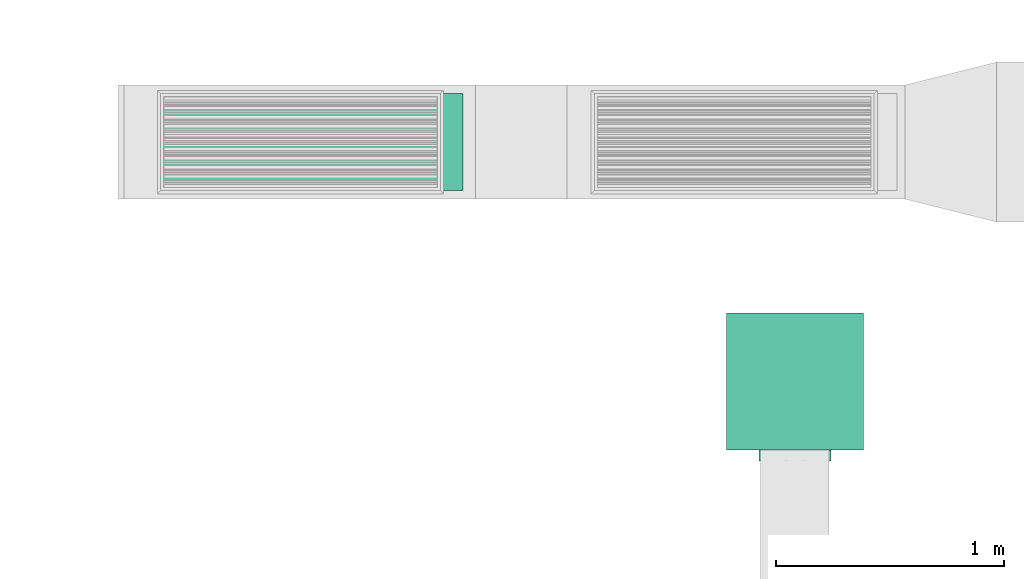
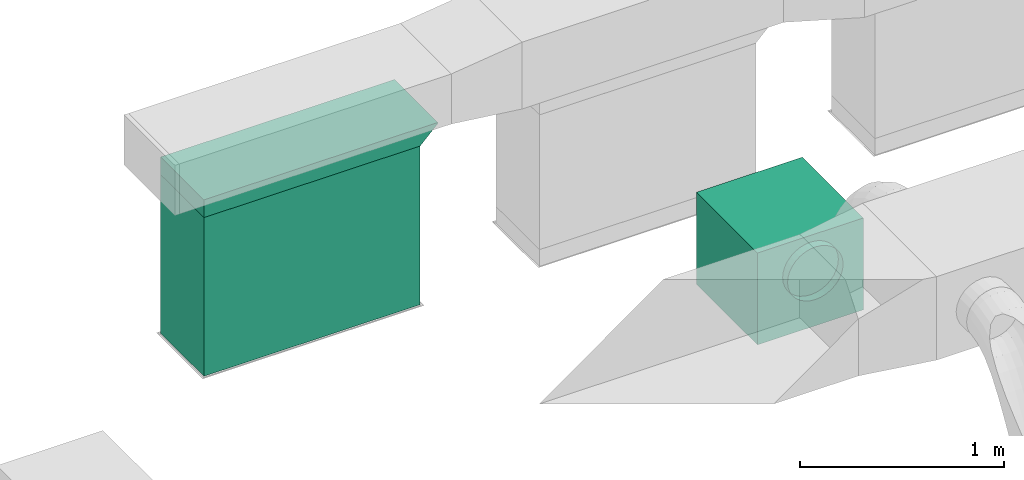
# One storey, part 9 of 60: 1 flow fitting, 1 flow segment, 1 flow terminal.
"""IFC2X3 building model written with IfcOpenShell, lengths in millimetres."""

from ifc_helpers import new_model, entity, si_unit, converted_unit, derived_unit, direction, frame, origin, origin_2d_with_axis, place, context, subcontext, project, spatial, polyline, rectangle, outline, extrude, face_set, surface_model, source, transform, mapped, material, type_object, type_shapes, element, save


model = new_model("IFC2X3")

# Units and contexts
model_context = context("Model", 3, precision=0.01, world=origin(), true_north=direction((6.123233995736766e-17, 1.0)))
body_context = subcontext(model_context, "Body", "Model", "MODEL_VIEW")
ifc_project = project(units=[si_unit("LENGTHUNIT", "METRE", prefix="MILLI"), converted_unit("PLANEANGLEUNIT", "DEGREE", entity("IfcPlaneAngleMeasure", 0.017453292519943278), si_unit("PLANEANGLEUNIT", "RADIAN"), dimensions=[0, 0, 0, 0, 0, 0, 0]), si_unit("AREAUNIT", "SQUARE_METRE"), derived_unit("THERMALTRANSMITTANCEUNIT", [(si_unit("MASSUNIT", "GRAM", prefix="KILO"), 1), (si_unit("THERMODYNAMICTEMPERATUREUNIT", "KELVIN"), -1), (si_unit("TIMEUNIT", "SECOND"), -3)])], contexts=[model_context])

# Site, building, storey
site_placement = place(None, origin())
site = spatial("IfcSite", under=ifc_project, at=site_placement, Name="Default", CompositionType="ELEMENT")
building_placement = place(site_placement, origin())
building = spatial("IfcBuilding", under=site, at=building_placement, Name="Praça Pedro II, 1301 - Centro (Sul), Teresina - PI, 64001-100", CompositionType="ELEMENT")
storey_placement = place(building_placement, frame((0.0, 0.0, 6040.0)))
storey = spatial("IfcBuildingStorey", under=building, at=storey_placement, Name="2PAV", CompositionType="ELEMENT", Elevation=6040.0)

# Flow terminal
ifc_material = material(Name="<Unnamed>")
air_terminal_type = type_object("IfcAirTerminalType", Name="VD-HM 600:VD-HM 600", PredefinedType="NOTDEFINED", material=ifc_material)
shared_shape_1 = source(origin(), body_context, "Body", "SurfaceModel", [
    surface_model("IfcFaceBasedSurfaceModel", [(280.24999051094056, 280.0000057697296, -0.099993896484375), (-279.75000286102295, 280.0000057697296, -0.099993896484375), (-279.75000286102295, -280.0000057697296, -0.099993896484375), (280.24999051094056, -280.0000057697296, -0.099993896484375), (-300.75001101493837, 0.0, 510.50001697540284), (-300.75001101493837, -30.726726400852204, 507.4736755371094), (-300.75001101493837, 0.0, 353.0000012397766), (-300.75001101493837, -60.27264279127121, 498.51103219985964), (-300.75001101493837, -87.50230793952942, 483.9564700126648), (-300.75001101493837, -111.3693195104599, 464.3693298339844), (-300.75001101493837, -130.95645968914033, 440.5023273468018), (-300.75001101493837, -145.51102187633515, 413.272630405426), (-300.75001101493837, -154.47367429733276, 383.7267230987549), (-300.75001101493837, -157.4999975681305, 353.0000012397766), (-300.75001101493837, -154.47367429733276, 322.27327938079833), (-300.75001101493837, -145.51102187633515, 292.7273539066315), (-300.75001101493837, -130.95645968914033, 265.4976933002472), (-300.75001101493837, -111.3693195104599, 241.63069081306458), (-300.75001101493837, -87.50230793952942, 222.04353246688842), (-300.75001101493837, -60.27264279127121, 207.4889702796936), (-300.75001101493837, -30.726726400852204, 198.52632694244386), (-300.75001101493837, 0.0, 195.5000036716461), (-300.75001101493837, 30.726726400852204, 198.52632694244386), (-300.75001101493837, 60.27264279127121, 207.4889702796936), (-300.75001101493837, 87.50230793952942, 222.04353246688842), (-300.75001101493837, 111.3693195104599, 241.63069081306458), (-300.75001101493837, 130.95645968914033, 265.4976933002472), (-300.75001101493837, 145.51102187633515, 292.7273539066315), (-300.75001101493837, 154.47367429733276, 322.27327938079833), (-300.75001101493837, 157.4999975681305, 353.0000012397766), (-300.75001101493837, 154.47367429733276, 383.7267230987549), (-300.75001101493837, 145.51102187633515, 413.272630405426), (-300.75001101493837, 130.95645968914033, 440.5023273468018), (-300.75001101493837, 111.3693195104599, 464.3693298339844), (-300.75001101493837, 87.50230793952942, 483.9564700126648), (-300.75001101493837, 60.27264279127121, 498.51103219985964), (-300.75001101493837, 30.726726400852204, 507.4736755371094), (300.24998703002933, 300.0000022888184, 550.000004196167), (300.24998703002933, 300.0000022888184, 0.0), (-299.7499993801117, 300.0000022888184, 0.0), (-299.7499993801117, 300.0000022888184, 550.000004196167), (300.24998703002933, -300.0000022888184, 550.000004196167), (300.24998703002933, -300.0000022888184, 0.0), (-299.7499993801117, -300.0000022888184, 550.000004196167), (-299.7499993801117, -300.0000022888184, 0.0), (280.24999051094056, 280.0000057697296, -0.099993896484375), (10.250000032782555, 280.0000057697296, -0.099993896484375), (10.250000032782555, 256.6173123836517, -13.600005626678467), (280.24999051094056, 256.6173123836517, -13.600005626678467), (280.24999051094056, 253.0, -0.099993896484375), (10.250000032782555, 253.0, -0.099993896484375), (10.250000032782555, 229.61732525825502, -13.600005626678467), (280.24999051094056, 229.61732525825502, -13.600005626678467), (280.24999051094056, 225.99999518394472, -0.099993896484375), (10.250000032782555, 225.99999518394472, -0.099993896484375), (10.250000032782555, 202.61731996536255, -13.600005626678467), (280.24999051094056, 202.61731996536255, -13.600005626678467), (280.24999051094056, 199.000008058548, -0.099993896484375), (10.250000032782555, 199.000008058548, -0.099993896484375), (10.250000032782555, 175.6173146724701, -13.600005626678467), (280.24999051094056, 175.6173146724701, -13.600005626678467), (280.24999051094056, 172.00000276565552, -0.099993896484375), (10.250000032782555, 172.00000276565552, -0.099993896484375), (10.250000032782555, 148.61731846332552, -13.600005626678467), (280.24999051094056, 148.61731846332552, -13.600005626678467), (280.24999051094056, 144.99999747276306, -0.099993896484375), (10.250000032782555, 144.99999747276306, -0.099993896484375), (10.250000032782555, 121.61731317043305, -13.600005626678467), (280.24999051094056, 121.61731317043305, -13.600005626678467), (280.24999051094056, 118.00000126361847, -0.099993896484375), (10.250000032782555, 118.00000126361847, -0.099993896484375), (280.24999051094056, 94.61731696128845, -13.600005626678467), (10.250000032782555, 94.61731696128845, -13.600005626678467), (280.24999051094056, 90.99999597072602, -0.099993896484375), (10.250000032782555, 90.99999597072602, -0.099993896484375), (280.24999051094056, 67.61731621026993, -13.600005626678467), (10.250000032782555, 67.61731621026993, -13.600005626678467), (280.24999051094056, 63.99999976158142, -0.099993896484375), (10.250000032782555, 63.99999976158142, -0.099993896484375), (10.250000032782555, 40.61731545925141, -13.600005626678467), (280.24999051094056, 40.61731545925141, -13.600005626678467), (280.24999051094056, 36.999999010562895, -0.099993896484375), (10.250000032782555, 36.999999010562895, -0.099993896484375), (10.250000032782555, 13.617316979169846, -13.600005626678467), (280.24999051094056, 13.617316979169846, -13.600005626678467), (-9.74999989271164, -256.6173123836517, -13.600005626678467), (-279.75000286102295, -256.6173123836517, -13.600005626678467), (-279.75000286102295, -280.0000057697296, -0.099993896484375), (-9.74999989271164, -280.0000057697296, -0.099993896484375), (-9.74999989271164, -229.61732525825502, -13.600005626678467), (-279.75000286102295, -229.61732525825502, -13.600005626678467), (-279.75000286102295, -253.0, -0.099993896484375), (-9.74999989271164, -253.0, -0.099993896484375), (-9.74999989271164, -202.61731996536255, -13.600005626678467), (-279.75000286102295, -202.61731996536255, -13.600005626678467), (-279.75000286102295, -225.99999518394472, -0.099993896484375), (-9.74999989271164, -225.99999518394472, -0.099993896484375), (-9.74999989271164, -175.6173146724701, -13.600005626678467), (-279.75000286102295, -175.6173146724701, -13.600005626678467), (-279.75000286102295, -199.000008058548, -0.099993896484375), (-9.74999989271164, -199.000008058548, -0.099993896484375), (-9.74999989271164, -148.61731846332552, -13.600005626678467), (-279.75000286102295, -148.61731846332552, -13.600005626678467), (-279.75000286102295, -172.00000276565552, -0.099993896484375), (-9.74999989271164, -172.00000276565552, -0.099993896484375), (-9.74999989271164, -121.61731317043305, -13.600005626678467), (-279.75000286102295, -121.61731317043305, -13.600005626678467), (-279.75000286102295, -144.99999747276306, -0.099993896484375), (-9.74999989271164, -144.99999747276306, -0.099993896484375), (-9.74999989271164, -94.61731696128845, -13.600005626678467), (-279.75000286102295, -94.61731696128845, -13.600005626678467), (-279.75000286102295, -118.00000126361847, -0.099993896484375), (-9.74999989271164, -118.00000126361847, -0.099993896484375), (-9.74999989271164, -67.61731621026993, -13.600005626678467), (-279.75000286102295, -67.61731621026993, -13.600005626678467), (-279.75000286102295, -90.99999597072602, -0.099993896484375), (-9.74999989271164, -90.99999597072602, -0.099993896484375), (-9.74999989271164, -40.61731545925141, -13.600005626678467), (-279.75000286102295, -40.61731545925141, -13.600005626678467), (-279.75000286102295, -63.99999976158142, -0.099993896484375), (-9.74999989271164, -63.99999976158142, -0.099993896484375), (-9.74999989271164, -13.617316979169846, -13.600005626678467), (-279.75000286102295, -13.617316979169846, -13.600005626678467), (-279.75000286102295, -36.999999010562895, -0.099993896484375), (-9.74999989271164, -36.999999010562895, -0.099993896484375), (280.24999051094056, -10.000000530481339, -0.099993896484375), (256.100465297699, -10.000000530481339, -12.174765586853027), (256.100465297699, -280.0000057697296, -12.174765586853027), (280.24999051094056, -280.0000057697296, -0.099993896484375), (253.25000338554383, -10.000000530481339, -0.099993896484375), (229.10046000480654, -10.000000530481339, -12.174765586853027), (229.10046000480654, -280.0000057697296, -12.174765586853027), (253.25000338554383, -280.0000057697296, -0.099993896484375), (226.24999809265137, -10.000000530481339, -0.099993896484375), (202.10045471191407, -10.000000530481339, -12.174765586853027), (202.10045471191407, -280.0000057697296, -12.174765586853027), (226.24999809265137, -280.0000057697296, -0.099993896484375), (199.24999279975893, -10.000000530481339, -0.099993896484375), (175.10046758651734, -10.000000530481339, -12.174765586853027), (175.10046758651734, -280.0000057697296, -12.174765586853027), (199.24999279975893, -280.0000057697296, -0.099993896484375), (172.24998750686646, -10.000000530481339, -0.099993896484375), (148.10046229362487, -10.000000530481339, -12.174765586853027), (148.10046229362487, -280.0000057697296, -12.174765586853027), (172.24998750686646, -280.0000057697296, -0.099993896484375), (145.25000038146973, -10.000000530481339, -0.099993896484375), (121.10046608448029, -10.000000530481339, -12.174765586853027), (121.10046608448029, -280.0000057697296, -12.174765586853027), (145.25000038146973, -280.0000057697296, -0.099993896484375), (118.24999508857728, -10.000000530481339, -0.099993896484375), (94.10046079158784, -10.000000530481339, -12.174765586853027), (94.10046079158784, -280.0000057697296, -12.174765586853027), (118.24999508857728, -280.0000057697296, -0.099993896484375), (91.24999887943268, -10.000000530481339, -0.099993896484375), (67.10046912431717, -10.000000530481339, -12.174765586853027), (67.10046912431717, -280.0000057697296, -12.174765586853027), (91.24999887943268, -280.0000057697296, -0.099993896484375), (64.24999812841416, -10.000000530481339, -0.099993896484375), (40.100468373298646, -10.000000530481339, -12.174765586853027), (40.100468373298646, -280.0000057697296, -12.174765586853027), (64.24999812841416, -280.0000057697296, -0.099993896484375), (37.250001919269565, -10.000000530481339, -0.099993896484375), (13.100466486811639, -10.000000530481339, -12.174765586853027), (13.100466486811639, -280.0000057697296, -12.174765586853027), (37.250001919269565, -280.0000057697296, -0.099993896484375), (-279.75000286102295, 10.000000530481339, -0.099993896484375), (-255.6004776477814, 10.000000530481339, -12.174765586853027), (-255.6004776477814, 280.0000057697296, -12.174765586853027), (-279.75000286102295, 280.0000057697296, -0.099993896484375), (-252.7499975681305, 10.000000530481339, -0.099993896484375), (-228.60047235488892, 10.000000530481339, -12.174765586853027), (-228.60047235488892, 280.0000057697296, -12.174765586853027), (-252.7499975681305, 280.0000057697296, -0.099993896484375), (-225.75001044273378, 10.000000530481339, -0.099993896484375), (-201.60046706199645, 10.000000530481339, -12.174765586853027), (-201.60046706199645, 280.0000057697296, -12.174765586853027), (-225.75001044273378, 280.0000057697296, -0.099993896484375), (-198.75000514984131, 10.000000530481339, -0.099993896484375), (-174.60046176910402, 10.000000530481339, -12.174765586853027), (-174.60046176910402, 280.0000057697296, -12.174765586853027), (-198.75000514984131, 280.0000057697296, -0.099993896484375), (-171.74999985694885, 10.000000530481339, -0.099993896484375), (-147.60046555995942, 10.000000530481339, -12.174765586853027), (-147.60046555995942, 280.0000057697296, -12.174765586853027), (-171.74999985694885, 280.0000057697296, -0.099993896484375), (-144.75000364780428, 10.000000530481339, -0.099993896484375), (-120.60046935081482, 10.000000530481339, -12.174765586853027), (-120.60046935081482, 280.0000057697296, -12.174765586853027), (-144.75000364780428, 280.0000057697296, -0.099993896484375), (-117.75000743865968, 10.000000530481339, -0.099993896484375), (-93.60046405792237, 10.000000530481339, -12.174765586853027), (-93.60046405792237, 280.0000057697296, -12.174765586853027), (-117.75000743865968, 280.0000057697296, -0.099993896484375), (-90.75000214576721, 10.000000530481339, -0.099993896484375), (-66.60046330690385, 10.000000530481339, -12.174765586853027), (-66.60046330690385, 280.0000057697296, -12.174765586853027), (-90.75000214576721, 280.0000057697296, -0.099993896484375), (-63.75000139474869, 10.000000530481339, -0.099993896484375), (-39.60046709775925, 10.000000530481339, -12.174765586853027), (-39.60046709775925, 280.0000057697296, -12.174765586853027), (-63.75000139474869, 280.0000057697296, -0.099993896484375), (-36.75000064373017, 10.000000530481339, -0.099993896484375), (-12.600466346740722, 10.000000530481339, -12.174765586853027), (-12.600466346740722, 280.0000057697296, -12.174765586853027), (-36.75000064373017, 280.0000057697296, -0.099993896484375), (-299.7499993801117, 0.0, 510.50001697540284), (-299.7499993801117, 30.726726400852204, 507.4736755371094), (-347.74999465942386, 30.726726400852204, 507.4736755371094), (-347.74999465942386, 0.0, 510.50001697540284), (-299.7499993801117, 60.27264279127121, 498.51103219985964), (-347.74999465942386, 60.27264279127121, 498.51103219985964), (-299.7499993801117, 87.50230793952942, 483.9564700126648), (-347.74999465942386, 87.50230793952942, 483.9564700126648), (-299.7499993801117, 111.3693195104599, 464.3693298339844), (-347.74999465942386, 111.3693195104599, 464.3693298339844), (-299.7499993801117, 130.95645968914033, 440.5023273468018), (-347.74999465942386, 130.95645968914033, 440.5023273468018), (-299.7499993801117, 145.51102187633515, 413.272630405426), (-347.74999465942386, 145.51102187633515, 413.272630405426), (-299.7499993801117, 154.47367429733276, 383.7267230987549), (-347.74999465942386, 154.47367429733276, 383.7267230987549), (-299.7499993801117, 157.4999975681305, 353.0000012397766), (-347.74999465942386, 157.4999975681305, 353.0000012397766), (-299.7499993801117, 154.47367429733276, 322.27327938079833), (-347.74999465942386, 154.47367429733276, 322.27327938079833), (-299.7499993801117, 145.51102187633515, 292.7273539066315), (-347.74999465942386, 145.51102187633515, 292.7273539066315), (-299.7499993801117, 130.95645968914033, 265.4976933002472), (-347.74999465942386, 130.95645968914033, 265.4976933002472), (-299.7499993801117, 111.3693195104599, 241.63069081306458), (-347.74999465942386, 111.3693195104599, 241.63069081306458), (-299.7499993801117, 87.50230793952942, 222.04353246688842), (-347.74999465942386, 87.50230793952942, 222.04353246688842), (-299.7499993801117, 60.27264279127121, 207.4889702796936), (-347.74999465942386, 60.27264279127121, 207.4889702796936), (-299.7499993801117, 30.726726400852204, 198.52632694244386), (-347.74999465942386, 30.726726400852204, 198.52632694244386), (-299.7499993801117, 0.0, 195.5000036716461), (-347.74999465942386, 0.0, 195.5000036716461), (-299.7499993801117, -30.726726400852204, 198.52632694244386), (-347.74999465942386, -30.726726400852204, 198.52632694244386), (-299.7499993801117, -60.27264279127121, 207.4889702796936), (-347.74999465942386, -60.27264279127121, 207.4889702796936), (-299.7499993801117, -87.50230793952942, 222.04353246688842), (-347.74999465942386, -87.50230793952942, 222.04353246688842), (-299.7499993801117, -111.3693195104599, 241.63069081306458), (-347.74999465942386, -111.3693195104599, 241.63069081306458), (-299.7499993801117, -130.95645968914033, 265.4976933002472), (-347.74999465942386, -130.95645968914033, 265.4976933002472), (-299.7499993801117, -145.51102187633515, 292.7273539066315), (-347.74999465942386, -145.51102187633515, 292.7273539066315), (-299.7499993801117, -154.47367429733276, 322.27327938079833), (-347.74999465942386, -154.47367429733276, 322.27327938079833), (-299.7499993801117, -157.4999975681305, 353.0000012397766), (-347.74999465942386, -157.4999975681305, 353.0000012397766), (-299.7499993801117, -154.47367429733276, 383.7267230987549), (-347.74999465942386, -154.47367429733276, 383.7267230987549), (-299.7499993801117, -145.51102187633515, 413.272630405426), (-347.74999465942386, -145.51102187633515, 413.272630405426), (-299.7499993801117, -130.95645968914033, 440.5023273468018), (-347.74999465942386, -130.95645968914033, 440.5023273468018), (-299.7499993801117, -111.3693195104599, 464.3693298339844), (-347.74999465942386, -111.3693195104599, 464.3693298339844), (-299.7499993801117, -87.50230793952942, 483.9564700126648), (-347.74999465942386, -87.50230793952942, 483.9564700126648), (-299.7499993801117, -60.27264279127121, 498.51103219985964), (-347.74999465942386, -60.27264279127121, 498.51103219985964), (-299.7499993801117, -30.726726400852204, 507.4736755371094), (-347.74999465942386, -30.726726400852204, 507.4736755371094), (-279.75000286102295, 10.000000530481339, -0.20000596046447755), (-279.75000286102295, -10.000000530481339, -0.20000596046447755), (280.24999051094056, -10.000000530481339, -0.20000596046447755), (280.24999051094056, 10.000000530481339, -0.20000596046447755), (10.250000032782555, 280.0000057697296, -0.20000596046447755), (-9.74999989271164, 280.0000057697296, -0.20000596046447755), (-9.74999989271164, -280.0000057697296, -0.20000596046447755), (10.250000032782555, -280.0000057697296, -0.20000596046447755)], [face_set([[[0, 1, 2]], [[0, 2, 3]], [[4, 5, 6]], [[5, 7, 6]], [[7, 8, 6]], [[8, 9, 6]], [[9, 10, 6]], [[10, 11, 6]], [[11, 12, 6]], [[12, 13, 6]], [[13, 14, 6]], [[14, 15, 6]], [[15, 16, 6]], [[16, 17, 6]], [[17, 18, 6]], [[18, 19, 6]], [[19, 20, 6]], [[20, 21, 6]], [[21, 22, 6]], [[22, 23, 6]], [[23, 24, 6]], [[24, 25, 6]], [[25, 26, 6]], [[26, 27, 6]], [[27, 28, 6]], [[28, 29, 6]], [[29, 30, 6]], [[30, 31, 6]], [[31, 32, 6]], [[32, 33, 6]], [[33, 34, 6]], [[34, 35, 6]], [[35, 36, 6]], [[36, 4, 6]]]), face_set([[[37, 38, 39]], [[37, 39, 40]], [[41, 42, 38]], [[41, 38, 37]], [[43, 44, 42]], [[43, 42, 41]], [[40, 39, 44]], [[40, 44, 43]], [[43, 41, 37]], [[43, 37, 40]], [[44, 42, 38]], [[44, 38, 39]], [[45, 46, 47]], [[45, 47, 48]], [[49, 50, 51]], [[49, 51, 52]], [[53, 54, 55]], [[53, 55, 56]], [[57, 58, 59]], [[57, 59, 60]], [[61, 62, 63]], [[61, 63, 64]], [[65, 66, 67]], [[65, 67, 68]], [[69, 70, 71]], [[70, 72, 71]], [[73, 74, 75]], [[74, 76, 75]], [[77, 78, 79]], [[77, 79, 80]], [[81, 82, 83]], [[81, 83, 84]], [[85, 86, 87]], [[85, 87, 88]], [[89, 90, 91]], [[89, 91, 92]], [[93, 94, 95]], [[93, 95, 96]], [[97, 98, 99]], [[97, 99, 100]], [[101, 102, 103]], [[101, 103, 104]], [[105, 106, 107]], [[105, 107, 108]], [[109, 110, 111]], [[109, 111, 112]], [[113, 114, 115]], [[113, 115, 116]], [[117, 118, 119]], [[117, 119, 120]], [[121, 122, 123]], [[121, 123, 124]], [[125, 126, 127]], [[125, 127, 128]], [[129, 130, 131]], [[129, 131, 132]], [[133, 134, 135]], [[133, 135, 136]], [[137, 138, 139]], [[137, 139, 140]], [[141, 142, 143]], [[141, 143, 144]], [[145, 146, 147]], [[145, 147, 148]], [[149, 150, 151]], [[149, 151, 152]], [[153, 154, 155]], [[153, 155, 156]], [[157, 158, 159]], [[157, 159, 160]], [[161, 162, 163]], [[161, 163, 164]], [[165, 166, 167]], [[165, 167, 168]], [[169, 170, 171]], [[169, 171, 172]], [[173, 174, 175]], [[173, 175, 176]], [[177, 178, 179]], [[177, 179, 180]], [[181, 182, 183]], [[181, 183, 184]], [[185, 186, 187]], [[185, 187, 188]], [[189, 190, 191]], [[189, 191, 192]], [[193, 194, 195]], [[193, 195, 196]], [[197, 198, 199]], [[197, 199, 200]], [[201, 202, 203]], [[201, 203, 204]], [[205, 206, 207]], [[205, 207, 208]], [[206, 209, 210]], [[206, 210, 207]], [[209, 211, 212]], [[209, 212, 210]], [[211, 213, 214]], [[211, 214, 212]], [[213, 215, 216]], [[213, 216, 214]], [[215, 217, 218]], [[215, 218, 216]], [[217, 219, 220]], [[217, 220, 218]], [[219, 221, 222]], [[219, 222, 220]], [[221, 223, 224]], [[221, 224, 222]], [[223, 225, 226]], [[223, 226, 224]], [[225, 227, 228]], [[225, 228, 226]], [[227, 229, 230]], [[227, 230, 228]], [[229, 231, 232]], [[229, 232, 230]], [[231, 233, 234]], [[231, 234, 232]], [[233, 235, 236]], [[233, 236, 234]], [[235, 237, 238]], [[235, 238, 236]], [[237, 239, 240]], [[237, 240, 238]], [[239, 241, 242]], [[239, 242, 240]], [[241, 243, 244]], [[241, 244, 242]], [[243, 245, 246]], [[243, 246, 244]], [[245, 247, 248]], [[245, 248, 246]], [[247, 249, 250]], [[247, 250, 248]], [[249, 251, 252]], [[249, 252, 250]], [[251, 253, 254]], [[251, 254, 252]], [[253, 255, 256]], [[253, 256, 254]], [[255, 257, 258]], [[255, 258, 256]], [[257, 259, 260]], [[257, 260, 258]], [[259, 261, 262]], [[259, 262, 260]], [[261, 263, 264]], [[261, 264, 262]], [[263, 265, 266]], [[263, 266, 264]], [[265, 267, 268]], [[265, 268, 266]], [[267, 205, 208]], [[267, 208, 268]]]), face_set([[[269, 270, 271]], [[269, 271, 272]], [[273, 274, 275]], [[273, 275, 276]]])]),
])
type_shapes(air_terminal_type, [shared_shape_1])
flow_terminal_placement = place(storey_placement, frame((26512.657700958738, -56621.15099926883, 2310.0), z_axis=(0.0, 0.0, 1.0), x_axis=(0.0, 1.0, 0.0)))
element("IfcFlowTerminal", 1, at=flow_terminal_placement, inside=storey, type_object=air_terminal_type, material=ifc_material, Name="VD-HM 600:VD-HM 600", ObjectType="VD-HM 600:VD-HM 600", context=body_context, shape_type="MappedRepresentation", body=[
    mapped(shared_shape_1, transform((0.0, 0.0, 0.0), scale=1.0)),
])

# Flow segment
duct_segment_type = type_object("IfcDuctSegmentType", Name="Duto retangular:Raios cotovelos / torneiras", PredefinedType="NOTDEFINED")
flow_segment_placement = place(storey_placement, origin())
element("IfcFlowSegment", 2, at=flow_segment_placement, inside=storey, type_object=duct_segment_type, Name="Duto retangular:Raios cotovelos / torneiras", ObjectType="Duto retangular:Raios cotovelos / torneiras", context=body_context, shape_type="SweptSolid", body=[
    extrude(rectangle(XDim=425.00000000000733, YDim=1224.9999999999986, at=origin_2d_with_axis()), frame((24346.911295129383, -55571.29390261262, 2300.0), z_axis=(0.0, 0.0, 1.0), x_axis=(0.0, -1.0, 0.0)), (0.0, 0.0, 1.0), 949.9999999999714),
])

# Flow fitting
duct_fitting_type = type_object("IfcDuctFittingType", Name="M_Rectangular Tap - Beveled:Standard", PredefinedType="NOTDEFINED", material=ifc_material)
shared_shape_2 = source(origin(), body_context, "Body", "SweptSolid", [
    extrude(outline(polyline([(-62.43840000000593, -775.0), (43.657600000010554, -775.0), (43.65760000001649, 550.0), (37.561599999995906, 550.0), (-62.438400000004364, 450.0), (-62.43840000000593, -775.0)])), frame((37.561599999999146, -162.50000000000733, -212.49999999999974), z_axis=(0.0, 0.0, 1.0), x_axis=(-1.0, 0.0, 0.0)), (0.0, 0.0, 1.0), 424.99999999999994),
])
type_shapes(duct_fitting_type, [shared_shape_2])
flow_fitting_placement = place(storey_placement, frame((24346.911295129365, -55571.293902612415, 3350.0), z_axis=(0.0, 1.0, 0.0), x_axis=(0.0, 0.0, -1.0)))
element("IfcFlowFitting", 3, at=flow_fitting_placement, inside=storey, type_object=duct_fitting_type, material=ifc_material, Name="M_Rectangular Tap - Beveled:Standard", ObjectType="M_Rectangular Tap - Beveled:Standard", context=body_context, shape_type="MappedRepresentation", body=[
    mapped(shared_shape_2, transform((0.0, 0.0, 0.0), scale=1.0)),
])

save(model, "model.ifc")
